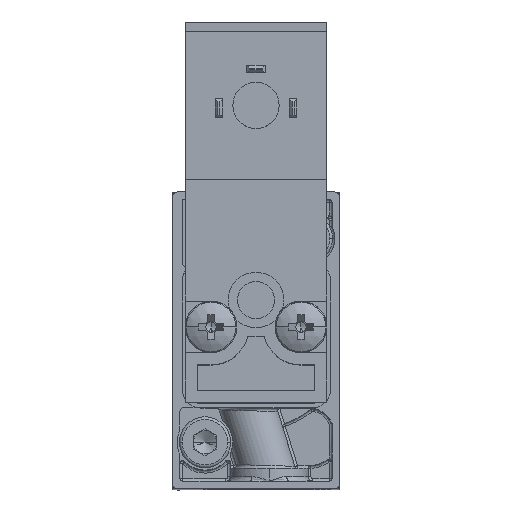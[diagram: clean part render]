
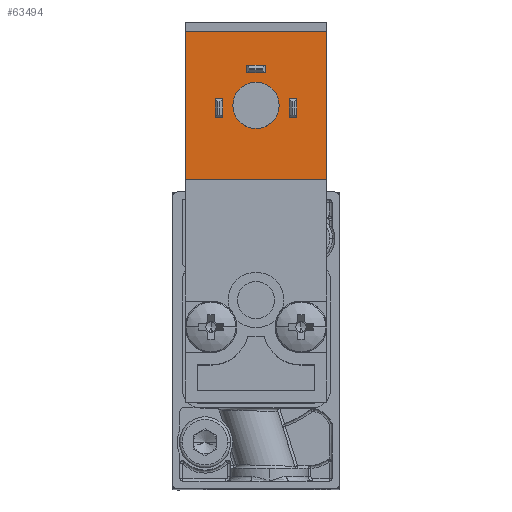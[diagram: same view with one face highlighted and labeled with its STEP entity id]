
A CAD part, top view. The second image highlights one B-rep face of the part: STEP entity #63494.
In plain terms, the highlighted planar face has unit normal (0, 0, 1).
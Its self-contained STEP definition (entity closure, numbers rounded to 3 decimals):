
#193 = DIRECTION ( 'NONE',  ( 1., 0., 0. ) ) ;
#669 = LINE ( 'NONE', #38348, #13244 ) ;
#1438 = DIRECTION ( 'NONE',  ( 0., 0., 1. ) ) ;
#1791 = FACE_OUTER_BOUND ( 'NONE', #11133, .T. ) ;
#1793 = VECTOR ( 'NONE', #13696, 1000. ) ;
#2011 = VERTEX_POINT ( 'NONE', #65100 ) ;
#2930 = CARTESIAN_POINT ( 'NONE',  ( 23.889, 46.389, 95.489 ) ) ;
#3477 = FACE_BOUND ( 'NONE', #58368, .T. ) ;
#3478 = VECTOR ( 'NONE', #45375, 1000. ) ;
#3780 = EDGE_CURVE ( 'NONE', #2011, #60468, #7737, .T. ) ;
#4514 = VERTEX_POINT ( 'NONE', #40660 ) ;
#5023 = DIRECTION ( 'NONE',  ( 1., 0., 0. ) ) ;
#5657 = CARTESIAN_POINT ( 'NONE',  ( 15.889, 46.389, 95.489 ) ) ;
#6842 = VECTOR ( 'NONE', #36827, 1000. ) ;
#7737 = CIRCLE ( 'NONE', #37476, 2.5 ) ;
#8343 = ORIENTED_EDGE ( 'NONE', *, *, #67062, .F. ) ;
#8798 = VECTOR ( 'NONE', #5023, 1000. ) ;
#9475 = CARTESIAN_POINT ( 'NONE',  ( 15.889, 46.189, 95.489 ) ) ;
#10338 = ORIENTED_EDGE ( 'NONE', *, *, #23046, .T. ) ;
#10982 = DIRECTION ( 'NONE',  ( -1., 0., 0. ) ) ;
#11133 = EDGE_LOOP ( 'NONE', ( #62388, #64157, #66401, #69901 ) ) ;
#11305 = LINE ( 'NONE', #32822, #40028 ) ;
#11454 = VERTEX_POINT ( 'NONE', #40126 ) ;
#12390 = DIRECTION ( 'NONE',  ( 0., -1., 0. ) ) ;
#12410 = VECTOR ( 'NONE', #53831, 1000. ) ;
#12695 = LINE ( 'NONE', #35222, #1793 ) ;
#12770 = CARTESIAN_POINT ( 'NONE',  ( 12.639, 53.689, 95.489 ) ) ;
#13244 = VECTOR ( 'NONE', #32944, 1000. ) ;
#13544 = CARTESIAN_POINT ( 'NONE',  ( 21.289, 49.189, 95.489 ) ) ;
#13696 = DIRECTION ( 'NONE',  ( 1., 0., 0. ) ) ;
#16092 = FACE_BOUND ( 'NONE', #53288, .T. ) ;
#17929 = CARTESIAN_POINT ( 'NONE',  ( 24.689, 46.389, 95.489 ) ) ;
#17968 = ORIENTED_EDGE ( 'NONE', *, *, #67578, .F. ) ;
#18877 = VERTEX_POINT ( 'NONE', #42330 ) ;
#19427 = DIRECTION ( 'NONE',  ( 0., 1., 0. ) ) ;
#20266 = ORIENTED_EDGE ( 'NONE', *, *, #47089, .T. ) ;
#20640 = DIRECTION ( 'NONE',  ( 0., 1., 0. ) ) ;
#20661 = DIRECTION ( 'NONE',  ( -1., 0., 0. ) ) ;
#20739 = CARTESIAN_POINT ( 'NONE',  ( 12.639, 13.689, 95.489 ) ) ;
#20767 = CARTESIAN_POINT ( 'NONE',  ( 16.689, 46.189, 95.489 ) ) ;
#21797 = CARTESIAN_POINT ( 'NONE',  ( 15.889, 46.389, 95.489 ) ) ;
#22216 = EDGE_CURVE ( 'NONE', #69484, #44968, #55069, .T. ) ;
#22309 = VERTEX_POINT ( 'NONE', #35607 ) ;
#23046 = EDGE_CURVE ( 'NONE', #22309, #51696, #46526, .T. ) ;
#23049 = VERTEX_POINT ( 'NONE', #50722 ) ;
#23160 = EDGE_CURVE ( 'NONE', #4514, #48321, #12695, .T. ) ;
#23262 = CARTESIAN_POINT ( 'NONE',  ( 20.289, 45.689, 95.489 ) ) ;
#24677 = VECTOR ( 'NONE', #34689, 1000. ) ;
#25187 = EDGE_CURVE ( 'NONE', #18877, #61002, #669, .T. ) ;
#26490 = EDGE_CURVE ( 'NONE', #28239, #56845, #46849, .T. ) ;
#26633 = EDGE_CURVE ( 'NONE', #23049, #28105, #27418, .T. ) ;
#26804 = ORIENTED_EDGE ( 'NONE', *, *, #25187, .F. ) ;
#27083 = AXIS2_PLACEMENT_3D ( 'NONE', #66024, #1438, #39124 ) ;
#27371 = VERTEX_POINT ( 'NONE', #17929 ) ;
#27418 = LINE ( 'NONE', #21797, #67113 ) ;
#28105 = VERTEX_POINT ( 'NONE', #5657 ) ;
#28239 = VERTEX_POINT ( 'NONE', #30639 ) ;
#28725 = DIRECTION ( 'NONE',  ( 1., 0., 0. ) ) ;
#28896 = ORIENTED_EDGE ( 'NONE', *, *, #37149, .T. ) ;
#29064 = CARTESIAN_POINT ( 'NONE',  ( 23.889, 46.189, 95.489 ) ) ;
#29427 = CARTESIAN_POINT ( 'NONE',  ( 22.789, 45.689, 95.489 ) ) ;
#29514 = EDGE_CURVE ( 'NONE', #11454, #50328, #37236, .T. ) ;
#30468 = FACE_BOUND ( 'NONE', #34786, .T. ) ;
#30639 = CARTESIAN_POINT ( 'NONE',  ( 27.939, 37.689, 95.489 ) ) ;
#30783 = VECTOR ( 'NONE', #31187, 1000. ) ;
#31187 = DIRECTION ( 'NONE',  ( 0., 1., 0. ) ) ;
#32480 = DIRECTION ( 'NONE',  ( 0., 0., -1. ) ) ;
#32822 = CARTESIAN_POINT ( 'NONE',  ( 24.689, 44.389, 95.489 ) ) ;
#32944 = DIRECTION ( 'NONE',  ( 1., 0., 0. ) ) ;
#34689 = DIRECTION ( 'NONE',  ( -1., 0., 0. ) ) ;
#34786 = EDGE_LOOP ( 'NONE', ( #44668, #46843, #48711, #52635 ) ) ;
#35222 = CARTESIAN_POINT ( 'NONE',  ( 20.289, 49.989, 95.489 ) ) ;
#35607 = CARTESIAN_POINT ( 'NONE',  ( 23.889, 44.389, 95.489 ) ) ;
#36175 = ORIENTED_EDGE ( 'NONE', *, *, #26633, .F. ) ;
#36729 = CARTESIAN_POINT ( 'NONE',  ( 27.939, 46.189, 95.489 ) ) ;
#36827 = DIRECTION ( 'NONE',  ( 0., 1., 0. ) ) ;
#37149 = EDGE_CURVE ( 'NONE', #18877, #28105, #45132, .T. ) ;
#37236 = LINE ( 'NONE', #20739, #6842 ) ;
#37476 = AXIS2_PLACEMENT_3D ( 'NONE', #23262, #61033, #28725 ) ;
#37483 = LINE ( 'NONE', #48159, #8798 ) ;
#37784 = ORIENTED_EDGE ( 'NONE', *, *, #61119, .T. ) ;
#38348 = CARTESIAN_POINT ( 'NONE',  ( 16.689, 44.389, 95.489 ) ) ;
#38673 = PLANE ( 'NONE',  #27083 ) ;
#39027 = LINE ( 'NONE', #62645, #40736 ) ;
#39124 = DIRECTION ( 'NONE',  ( 1., 0., 0. ) ) ;
#40028 = VECTOR ( 'NONE', #59684, 1000. ) ;
#40126 = CARTESIAN_POINT ( 'NONE',  ( 12.639, 37.689, 95.489 ) ) ;
#40660 = CARTESIAN_POINT ( 'NONE',  ( 19.289, 49.989, 95.489 ) ) ;
#40736 = VECTOR ( 'NONE', #19427, 1000. ) ;
#41213 = EDGE_CURVE ( 'NONE', #69484, #48321, #39027, .T. ) ;
#41422 = CIRCLE ( 'NONE', #65898, 2.5 ) ;
#41658 = VECTOR ( 'NONE', #20661, 1000. ) ;
#42330 = CARTESIAN_POINT ( 'NONE',  ( 15.889, 44.389, 95.489 ) ) ;
#42876 = LINE ( 'NONE', #64713, #12410 ) ;
#44229 = CARTESIAN_POINT ( 'NONE',  ( 24.689, 46.189, 95.489 ) ) ;
#44668 = ORIENTED_EDGE ( 'NONE', *, *, #22216, .T. ) ;
#44721 = CARTESIAN_POINT ( 'NONE',  ( 19.289, 49.189, 95.489 ) ) ;
#44804 = FACE_BOUND ( 'NONE', #64526, .T. ) ;
#44968 = VERTEX_POINT ( 'NONE', #54822 ) ;
#45132 = LINE ( 'NONE', #9475, #30783 ) ;
#45375 = DIRECTION ( 'NONE',  ( 0., 1., 0. ) ) ;
#45867 = VERTEX_POINT ( 'NONE', #69597 ) ;
#46526 = LINE ( 'NONE', #29064, #3478 ) ;
#46763 = EDGE_CURVE ( 'NONE', #11454, #28239, #37483, .T. ) ;
#46843 = ORIENTED_EDGE ( 'NONE', *, *, #69309, .F. ) ;
#46849 = LINE ( 'NONE', #36729, #62926 ) ;
#47089 = EDGE_CURVE ( 'NONE', #27371, #45867, #67014, .T. ) ;
#48159 = CARTESIAN_POINT ( 'NONE',  ( 20.289, 37.689, 95.489 ) ) ;
#48321 = VERTEX_POINT ( 'NONE', #54844 ) ;
#48711 = ORIENTED_EDGE ( 'NONE', *, *, #23160, .T. ) ;
#49630 = DIRECTION ( 'NONE',  ( 0., -1., 0. ) ) ;
#50328 = VERTEX_POINT ( 'NONE', #12770 ) ;
#50722 = CARTESIAN_POINT ( 'NONE',  ( 16.689, 46.389, 95.489 ) ) ;
#50919 = VECTOR ( 'NONE', #49630, 1000. ) ;
#51696 = VERTEX_POINT ( 'NONE', #2930 ) ;
#51953 = CARTESIAN_POINT ( 'NONE',  ( 27.939, 53.689, 95.489 ) ) ;
#52635 = ORIENTED_EDGE ( 'NONE', *, *, #41213, .F. ) ;
#53005 = CARTESIAN_POINT ( 'NONE',  ( 23.889, 46.389, 95.489 ) ) ;
#53288 = EDGE_LOOP ( 'NONE', ( #55281, #57260 ) ) ;
#53831 = DIRECTION ( 'NONE',  ( 1., 0., 0. ) ) ;
#54263 = LINE ( 'NONE', #53005, #41658 ) ;
#54382 = EDGE_CURVE ( 'NONE', #60468, #2011, #41422, .T. ) ;
#54822 = CARTESIAN_POINT ( 'NONE',  ( 19.289, 49.189, 95.489 ) ) ;
#54844 = CARTESIAN_POINT ( 'NONE',  ( 21.289, 49.989, 95.489 ) ) ;
#55069 = LINE ( 'NONE', #66989, #24677 ) ;
#55201 = VECTOR ( 'NONE', #58522, 1000. ) ;
#55281 = ORIENTED_EDGE ( 'NONE', *, *, #54382, .T. ) ;
#56845 = VERTEX_POINT ( 'NONE', #51953 ) ;
#57079 = EDGE_CURVE ( 'NONE', #50328, #56845, #42876, .T. ) ;
#57260 = ORIENTED_EDGE ( 'NONE', *, *, #3780, .T. ) ;
#58368 = EDGE_LOOP ( 'NONE', ( #26804, #28896, #36175, #37784 ) ) ;
#58522 = DIRECTION ( 'NONE',  ( 0., -1., 0. ) ) ;
#59684 = DIRECTION ( 'NONE',  ( 1., 0., 0. ) ) ;
#60468 = VERTEX_POINT ( 'NONE', #29427 ) ;
#61002 = VERTEX_POINT ( 'NONE', #62160 ) ;
#61033 = DIRECTION ( 'NONE',  ( 0., 0., -1. ) ) ;
#61119 = EDGE_CURVE ( 'NONE', #23049, #61002, #67917, .T. ) ;
#62160 = CARTESIAN_POINT ( 'NONE',  ( 16.689, 44.389, 95.489 ) ) ;
#62388 = ORIENTED_EDGE ( 'NONE', *, *, #46763, .T. ) ;
#62535 = VECTOR ( 'NONE', #12390, 1000. ) ;
#62645 = CARTESIAN_POINT ( 'NONE',  ( 21.289, 49.989, 95.489 ) ) ;
#62926 = VECTOR ( 'NONE', #20640, 1000. ) ;
#63494 = ADVANCED_FACE ( 'NONE', ( #44804, #3477, #30468, #16092, #1791 ), #38673, .T. ) ;
#64157 = ORIENTED_EDGE ( 'NONE', *, *, #26490, .T. ) ;
#64526 = EDGE_LOOP ( 'NONE', ( #8343, #10338, #17968, #20266 ) ) ;
#64713 = CARTESIAN_POINT ( 'NONE',  ( 16.464, 53.689, 95.489 ) ) ;
#64826 = CARTESIAN_POINT ( 'NONE',  ( 20.289, 45.689, 95.489 ) ) ;
#65100 = CARTESIAN_POINT ( 'NONE',  ( 17.789, 45.689, 95.489 ) ) ;
#65898 = AXIS2_PLACEMENT_3D ( 'NONE', #64826, #32480, #193 ) ;
#66024 = CARTESIAN_POINT ( 'NONE',  ( 20.289, 46.189, 95.489 ) ) ;
#66401 = ORIENTED_EDGE ( 'NONE', *, *, #57079, .F. ) ;
#66989 = CARTESIAN_POINT ( 'NONE',  ( 20.289, 49.189, 95.489 ) ) ;
#67014 = LINE ( 'NONE', #44229, #50919 ) ;
#67062 = EDGE_CURVE ( 'NONE', #22309, #45867, #11305, .T. ) ;
#67113 = VECTOR ( 'NONE', #10982, 1000. ) ;
#67578 = EDGE_CURVE ( 'NONE', #27371, #51696, #54263, .T. ) ;
#67600 = LINE ( 'NONE', #44721, #62535 ) ;
#67917 = LINE ( 'NONE', #20767, #55201 ) ;
#69309 = EDGE_CURVE ( 'NONE', #4514, #44968, #67600, .T. ) ;
#69484 = VERTEX_POINT ( 'NONE', #13544 ) ;
#69597 = CARTESIAN_POINT ( 'NONE',  ( 24.689, 44.389, 95.489 ) ) ;
#69901 = ORIENTED_EDGE ( 'NONE', *, *, #29514, .F. ) ;
